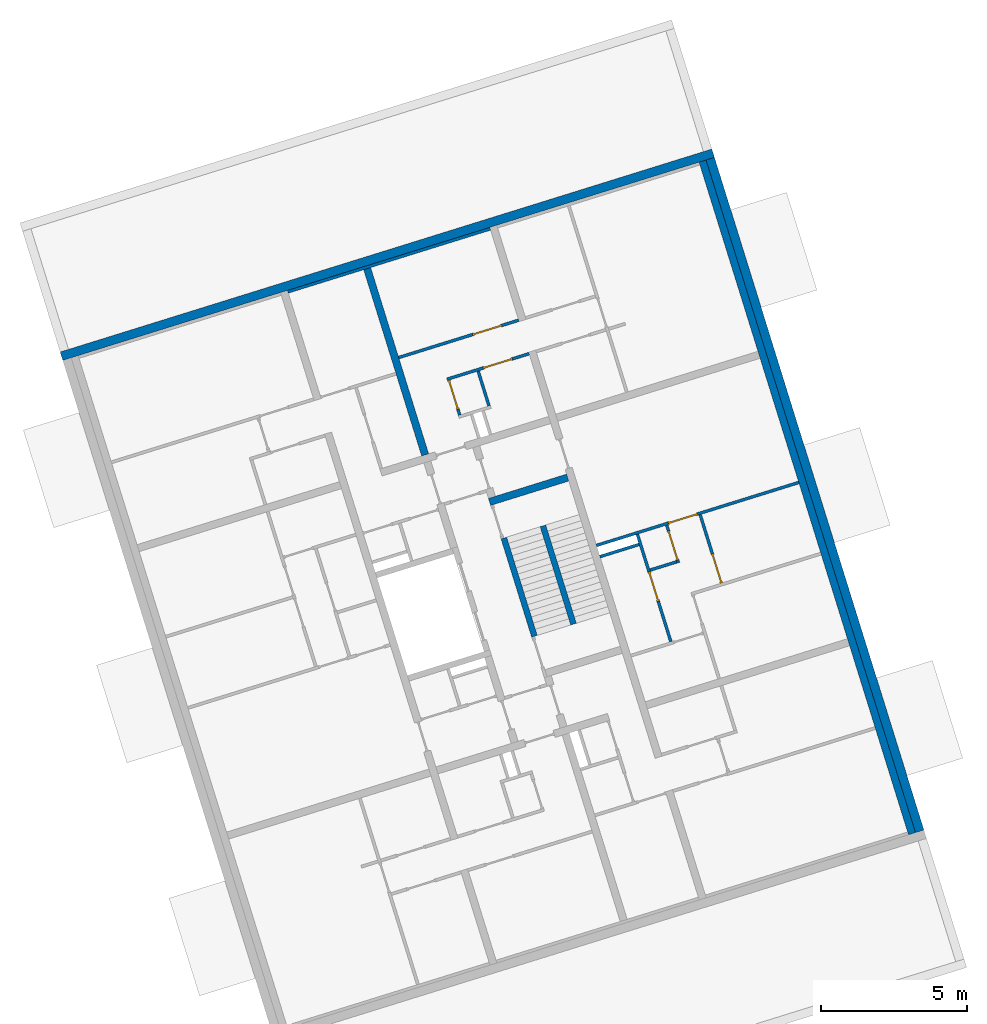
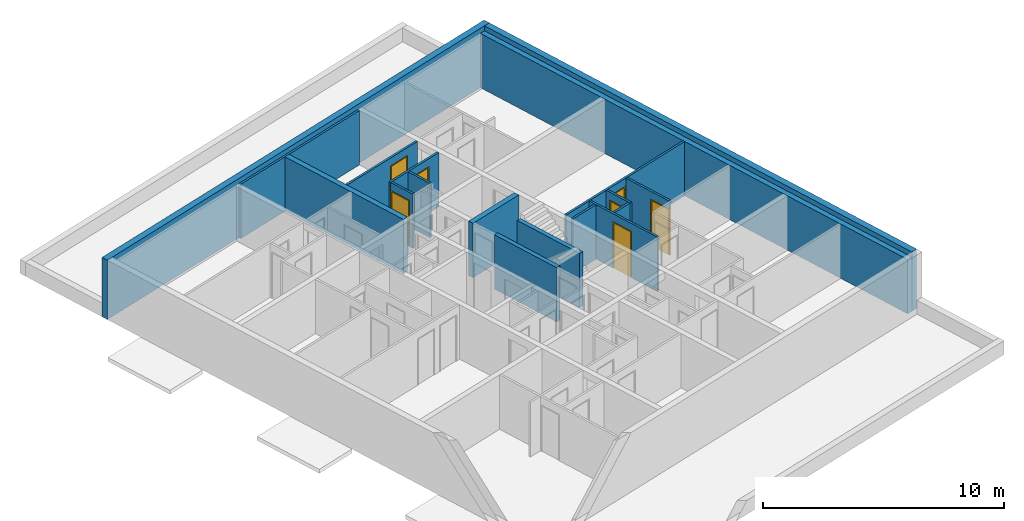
# One storey, part 6 of 9: 18 walls, 7 doors, 8 openings.
"""IFC4 building model written with IfcOpenShell, lengths in metres."""

from ifc_helpers import new_model, entity, si_unit, converted_unit, direction, frame, origin, place, context, subcontext, project, spatial, indexed_curve, outline, extrude, polygons, source, transform, mapped, material, constituent, constituent_set, type_object, type_shapes, element, fill, save


model = new_model("IFC4")

# Units and contexts
model_context = context("Model", 3, precision=1e-05, world=origin(), true_north=direction((6.12323399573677e-17, 1.0)))
body_context = subcontext(model_context, "Body", "Model", "MODEL_VIEW")
ifc_project = project(units=[si_unit("LENGTHUNIT", "METRE"), si_unit("AREAUNIT", "SQUARE_METRE"), si_unit("VOLUMEUNIT", "CUBIC_METRE"), converted_unit("PLANEANGLEUNIT", "DEGREE", entity("IfcPlaneAngleMeasure", 0.0174532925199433), si_unit("PLANEANGLEUNIT", "RADIAN"), dimensions=[0, 0, 0, 0, 0, 0, 0])], contexts=[model_context])

# Site, building, storey
site_placement = place(None, frame((13.1347999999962, 11.9886000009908, 0.0), z_axis=(0.0, 0.0, 1.0), x_axis=(0.954770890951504, 0.297342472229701, 0.0)))
site = spatial("IfcSite", under=ifc_project, at=site_placement, Name="Schiehaven", CompositionType="ELEMENT")
building_placement = place(site_placement, origin())
building = spatial("IfcBuilding", under=site, at=building_placement, Name="VORM huis", CompositionType="ELEMENT")
storey_placement = place(building_placement, frame((0.0, 0.0, 6.9)))
storey = spatial("IfcBuildingStorey", under=building, at=storey_placement, Name="02 tweede verdieping", CompositionType="ELEMENT", Elevation=6.9)

# Walls
ifc_material_1 = material(Name="beton_gewapend_ihw", Category="Miscellaneous")
wall_type_1 = type_object("IfcWallType", Name="Basic Wall:28_WA_skelet_wand 250mm_gen", PredefinedType="STANDARD")
wall_1_placement = place(storey_placement, frame((27.5000000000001, 5.0, 0.0), z_axis=(0.0, 0.0, 1.0), x_axis=(0.0, 1.0, 0.0)))
element("IfcWall", 1, at=wall_1_placement, inside=storey, type_object=wall_type_1, material=ifc_material_1, Name="Constructieve wand", ObjectType="Wand", PredefinedType="NOTDEFINED", context=body_context, shape_type="SweptSolid", body=[
    extrude(outline(indexed_curve([(24.1, 0.125000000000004), (-1.12157309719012e-16, 0.125000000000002), (1.12157309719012e-16, -0.125000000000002), (24.1, -0.125), (24.1, 0.125000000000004)], self_intersect=False)), origin(), (0.0, 0.0, 1.0), 2.75),
])
ifc_material_2 = material(Name="ntb_ntb_ntb", Category="Miscellaneous")
wall_type_2 = type_object("IfcWallType", Name="Basic Wall:21_WA_gevel_binnenspouwwand 100mm_gen", PredefinedType="STANDARD")
wall_2_placement = place(storey_placement, frame((19.875, 29.05, 0.0), z_axis=(0.0, 0.0, 1.0), x_axis=(-1.0, 0.0, 0.0)))
element("IfcWall", 2, at=wall_2_placement, inside=storey, type_object=wall_type_2, material=ifc_material_2, Name="Binnenspouwblad", ObjectType="Wand", PredefinedType="NOTDEFINED", context=body_context, shape_type="SweptSolid", body=[
    extrude(outline(indexed_curve([(7.24999999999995, 0.0500000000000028), (-8.07179175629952e-18, 0.0500000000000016), (8.07179175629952e-18, -0.0500000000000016), (7.24999999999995, -0.0500000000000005), (7.24999999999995, 0.0500000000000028)], self_intersect=False)), origin(), (0.0, 0.0, 1.0), 2.75),
])
wall_type_3 = type_object("IfcWallType", Name="Basic Wall: 300mm_gen", PredefinedType="STANDARD")
wall_3_placement = place(storey_placement, frame((27.7750000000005, 29.0999999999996, 0.0), z_axis=(0.0, 0.0, 1.0), x_axis=(0.0, -1.0, 0.0)))
element("IfcWall", 3, at=wall_3_placement, inside=storey, type_object=wall_type_3, material=ifc_material_2, Name="Gevelwand", ObjectType="Wand", PredefinedType="NOTDEFINED", context=body_context, shape_type="SweptSolid", body=[
    extrude(outline(indexed_curve([(24.1, 0.150000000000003), (2.02161848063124e-15, 0.150000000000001), (-2.02161848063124e-15, -0.150000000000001), (24.1, -0.149999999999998), (24.1, 0.150000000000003)], self_intersect=False)), origin(), (0.0, 0.0, 1.0), 3.0),
])
wall_4_placement = place(storey_placement, frame((4.57500000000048, 29.25, 0.0)))
element("IfcWall", 4, at=wall_4_placement, inside=storey, type_object=wall_type_3, material=ifc_material_2, Name="Gevelwand", ObjectType="Wand", PredefinedType="NOTDEFINED", context=body_context, shape_type="SweptSolid", body=[
    extrude(outline(indexed_curve([(23.35, 0.149999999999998), (-1.57429718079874e-16, 0.150000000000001), (1.57429718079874e-16, -0.150000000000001), (23.35, -0.150000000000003), (23.35, 0.149999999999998)], self_intersect=False)), origin(), (0.0, 0.0, 1.0), 3.0),
])
ifc_material_3 = material(Name="beton_gewapend_prefab-element", Category="Miscellaneous")
wall_type_4 = type_object("IfcWallType", Name="Basic Wall:28_WA_skelet_wand 200mm_gen", PredefinedType="STANDARD")
wall_5_placement = place(storey_placement, frame((17.1750000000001, 15.29, 0.0), z_axis=(0.0, 0.0, 1.0), x_axis=(0.0, 1.0, 0.0)))
element("IfcWall", 5, at=wall_5_placement, inside=storey, type_object=wall_type_4, material=ifc_material_3, Name="Constructieve wand", ObjectType="Wand", PredefinedType="NOTDEFINED", context=body_context, shape_type="SweptSolid", body=[
    extrude(outline(indexed_curve([(3.52, 0.0999999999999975), (-5.13023966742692e-16, 0.0999999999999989), (5.13023966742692e-16, -0.0999999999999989), (3.52, -0.1), (3.52, 0.0999999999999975)], self_intersect=False)), origin(), (0.0, 0.0, 1.0), 2.75),
])
wall_6_placement = place(storey_placement, frame((18.5750000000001, 15.29, 0.0), z_axis=(0.0, 0.0, 1.0), x_axis=(0.0, 1.0, 0.0)))
element("IfcWall", 6, at=wall_6_placement, inside=storey, type_object=wall_type_4, material=ifc_material_3, Name="Constructieve wand", ObjectType="Wand", PredefinedType="NOTDEFINED", context=body_context, shape_type="SweptSolid", body=[
    extrude(outline(indexed_curve([(3.52, 0.0999999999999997), (-6.36077049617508e-16, 0.0999999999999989), (6.36077049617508e-16, -0.0999999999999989), (3.52, -0.0999999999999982), (3.52, 0.0999999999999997)], self_intersect=False)), origin(), (0.0, 0.0, 1.0), 2.75),
])
wall_type_5 = type_object("IfcWallType", Name="Basic Wall:22_WA_afbouw_binnenwand 250mm_gen", PredefinedType="STANDARD")
wall_7_placement = place(storey_placement, frame((19.8750000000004, 20.1349999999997, 0.0), z_axis=(0.0, 0.0, 1.0), x_axis=(-1.0, 0.0, 0.0)))
element("IfcWall", 7, at=wall_7_placement, inside=storey, type_object=wall_type_5, material=ifc_material_2, Name="Binnenwand", ObjectType="Wand", PredefinedType="NOTDEFINED", context=body_context, shape_type="SweptSolid", body=[
    extrude(outline(indexed_curve([(2.80000000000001, 0.125000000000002), (2.21820971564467e-15, 0.125000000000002), (2.1132588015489e-15, -0.125000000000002), (2.80000000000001, -0.125000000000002), (2.80000000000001, 0.125000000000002)], self_intersect=False)), origin(), (0.0, 0.0, 1.0), 2.75),
])
wall_8_placement = place(storey_placement, frame((15.4500000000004, 22.3249999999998, 0.0), z_axis=(0.0, 0.0, 1.0), x_axis=(0.0, 1.0, 0.0)))
element("IfcWall", 8, at=wall_8_placement, inside=storey, type_object=wall_type_5, material=ifc_material_2, Name="Binnenwand", ObjectType="Wand", PredefinedType="NOTDEFINED", context=body_context, shape_type="SweptSolid", body=[
    extrude(outline(indexed_curve([(6.67500000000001, 0.124999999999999), (2.02524027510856e-15, 0.125), (-2.02524027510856e-15, -0.125), (6.67500000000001, -0.125), (6.67500000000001, 0.124999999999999)], self_intersect=False)), origin(), (0.0, 0.0, 1.0), 2.75),
])

# Wall, opening, door
wall_type_6 = type_object("IfcWallType", Name="Basic Wall:22_WA_afbouw_binnenwand 100mm_gen", PredefinedType="STANDARD")
wall_9_placement = place(storey_placement, frame((19.8750000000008, 25.7750000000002, 0.0), z_axis=(0.0, 0.0, 1.0), x_axis=(-1.0, 0.0, 0.0)))
wall_9 = element("IfcWall", 9, at=wall_9_placement, inside=storey, type_object=wall_type_6, material=ifc_material_2, Name="Binnenwand", ObjectType="Wand", PredefinedType="NOTDEFINED", context=body_context, shape_type="Tessellation", body=[
    polygons([(1.41600119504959e-15, -0.0499999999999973, 1.08286712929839e-15), (0.599999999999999, -0.0499999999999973, 1.08286712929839e-15), (0.600000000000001, -0.0499999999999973, 2.34999999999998), (1.65, -0.0500000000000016, 2.34999999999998), (1.65, -0.0500000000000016, 1.08286712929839e-15), (4.30000000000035, -0.0500000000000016, 1.08286712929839e-15), (4.30000000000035, -0.0500000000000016, 2.75), (1.41600119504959e-15, -0.0499999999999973, 2.75), (0.600000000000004, 0.0500000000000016, 2.34999999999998), (0.600000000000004, 0.0500000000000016, 1.08286712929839e-15), (-3.19070089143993e-17, 0.0500000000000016, 1.08286712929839e-15), (-3.19070089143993e-17, 0.0500000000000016, 2.75), (4.30000000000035, 0.0499999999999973, 2.75), (4.30000000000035, 0.0499999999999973, 1.08286712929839e-15), (1.65, 0.0499999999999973, 1.08286712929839e-15), (1.65, 0.0499999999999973, 2.34999999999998)], [[[1, 2, 3, 4, 5, 6, 7, 8]], [[9, 10, 11, 12, 13, 14, 15, 16]], [[11, 10, 2, 1]], [[7, 6, 14, 13]], [[8, 7, 13, 12]], [[1, 8, 12, 11]], [[5, 4, 16, 15]], [[3, 2, 10, 9]], [[4, 3, 9, 16]], [[15, 14, 6, 5]]], closed=True),
])
opening_1_placement = place(wall_9_placement, frame((0.599999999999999, -0.0500000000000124, 0.0)))
opening_1 = element("IfcOpeningElement", 10, at=opening_1_placement, cuts=wall_9, Name="Binnendeur", PredefinedType="OPENING", context=body_context, shape_type="SweptSolid", body=[
    extrude(outline(indexed_curve([(2.34999999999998, 1.05), (0.0, 1.05), (0.0, 1.35358391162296e-15), (2.34999999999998, 1.35358391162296e-15), (2.34999999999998, 1.05)], self_intersect=False)), frame((0.0, 0.0, 0.0), z_axis=(0.0, 1.0, 0.0), x_axis=(0.0, 0.0, 1.0)), (0.0, 0.0, 1.0), 0.1),
])
ifc_material_4 = material(Name="PD_a_binnenwandopeningen", Category="Miscellaneous")
ifc_constituent_1 = constituent(ifc_material_4, Name="PD_a_binnenwandopeningen", Category="Miscellaneous")
ifc_material_5 = material(Name="metaal_aluminium_ntb", Category="Miscellaneous")
ifc_constituent_2 = constituent(ifc_material_5, Name="metaal_aluminium_ntb", Category="Miscellaneous")
ifc_constituent_set_1 = constituent_set(constituents=[ifc_constituent_1, ifc_constituent_2])
door_type = type_object("IfcDoorType", Name="32_DO_binnendeur enkel:binnendeur", OperationType="REVOLVING", PredefinedType="DOOR")
shared_shape = source(origin(), body_context, "Body", "SweptSolid", [
    extrude(outline(indexed_curve([(-1.16249999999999, -0.525000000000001), (1.18749999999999, -0.525), (1.18749999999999, 0.525), (-1.16249999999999, 0.525), (-1.16249999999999, 0.475), (1.13749999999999, 0.475), (1.13749999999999, -0.475), (-1.16249999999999, -0.475), (-1.16249999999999, -0.525000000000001)], self_intersect=False)), frame((0.525000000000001, 0.0, 1.16249999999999), z_axis=(0.0, 1.0, 0.0), x_axis=(0.0, 0.0, 1.0)), (0.0, 0.0, 1.0), 0.1),
    extrude(outline(indexed_curve([(-0.025, -0.475), (0.025, -0.475), (0.025, 0.475), (-0.025, 0.475), (-0.025, -0.475)], self_intersect=False)), frame((0.525000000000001, 0.0499999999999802, 0.0), z_axis=(0.0, 0.0, 1.0), x_axis=(0.0, 1.0, 0.0)), (0.0, 0.0, 1.0), 2.29999999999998),
])
type_shapes(door_type, [shared_shape])
door_1_placement = place(opening_1_placement, origin())
door_1 = element("IfcDoor", 11, at=door_1_placement, inside=storey, type_object=door_type, material=ifc_constituent_set_1, Name="Binnendeur", ObjectType="Deur", OperationType="REVOLVING", OverallHeight=2.34999999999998, OverallWidth=1.05, PredefinedType="DOOR", context=body_context, shape_type="MappedRepresentation", body=[
    mapped(shared_shape, transform((0.0, 0.0, 0.0), scale=1.0)),
])
fill(opening_1, door_1)

# Wall, openings, door
wall_10_placement = place(storey_placement, frame((19.8750000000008, 24.5750000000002, 0.0), z_axis=(0.0, 0.0, 1.0), x_axis=(-1.0, 0.0, 0.0)))
wall_10 = element("IfcWall", 12, at=wall_10_placement, inside=storey, type_object=wall_type_6, material=ifc_material_2, Name="Binnenwand", ObjectType="Wand", PredefinedType="NOTDEFINED", context=body_context, shape_type="Tessellation", body=[
    polygons([(1.65, -0.0500000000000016, 2.34999999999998), (1.65, -0.0500000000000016, 1.08286712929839e-15), (2.94100000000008, -0.0500000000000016, 1.08286712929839e-15), (2.94100000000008, -0.0500000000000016, 2.75), (1.36697681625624e-15, -0.0499999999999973, 2.75), (1.36697681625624e-15, -0.0499999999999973, 1.08286712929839e-15), (0.599999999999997, -0.0499999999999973, 1.08286712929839e-15), (0.599999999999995, -0.0499999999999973, 2.34999999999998), (2.94100000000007, 0.0499999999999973, 1.08286712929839e-15), (1.89100000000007, 0.0499999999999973, 0.0), (1.79100000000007, 0.0500000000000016, 0.0), (1.65, 0.0499999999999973, 1.08286712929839e-15), (1.65, 0.0499999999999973, 2.34999999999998), (0.6, 0.0500000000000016, 2.34999999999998), (0.6, 0.0500000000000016, 1.08286712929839e-15), (-8.09313877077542e-17, 0.0500000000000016, 1.08286712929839e-15), (-8.09313877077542e-17, 0.0500000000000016, 2.75), (1.79100000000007, 0.0500000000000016, 2.75), (1.89100000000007, 0.0499999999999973, 2.75), (2.84100000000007, 0.0499999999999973, 2.75), (2.94100000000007, 0.0499999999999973, 2.75), (2.94100000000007, 0.0499999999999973, 2.34999999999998)], [[[1, 2, 3, 4, 5, 6, 7, 8]], [[9, 10, 11, 12, 13, 14, 15, 16, 17, 18, 19, 20, 21, 22]], [[7, 6, 16, 15]], [[5, 4, 21, 20, 19, 18, 17]], [[6, 5, 17, 16]], [[15, 14, 8, 7]], [[13, 12, 2, 1]], [[14, 13, 1, 8]], [[4, 3, 9, 22, 21]], [[3, 2, 12, 11, 10, 9]]], closed=True),
])
opening_2_placement = place(wall_10_placement, origin())
element("IfcOpeningElement", 13, at=opening_2_placement, cuts=wall_10, Name="Binnendeur", PredefinedType="OPENING", context=body_context, shape_type="SweptSolid", body=[
    extrude(outline(indexed_curve([(-0.0499999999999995, -1.17499999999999), (0.0500000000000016, -1.17499999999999), (0.0500000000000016, 1.17499999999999), (-0.0499999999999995, 1.17499999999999), (-0.0499999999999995, -1.17499999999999)], self_intersect=False)), frame((2.89100000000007, 0.0499999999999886, 1.17499999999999), z_axis=(0.0, 1.0, 0.0), x_axis=(-1.0, 0.0, 0.0)), (0.0, 0.0, 1.0), 1.05),
])
opening_3_placement = place(wall_10_placement, frame((1.65, 0.0499999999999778, 0.0)))
opening_3 = element("IfcOpeningElement", 14, at=opening_3_placement, cuts=wall_10, Name="Binnendeur", PredefinedType="OPENING", context=body_context, shape_type="SweptSolid", body=[
    extrude(outline(indexed_curve([(2.34999999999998, 1.05), (0.0, 1.05), (0.0, 1.35358391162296e-15), (2.34999999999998, 1.35358391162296e-15), (2.34999999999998, 1.05)], self_intersect=False)), frame((0.0, 0.0, 0.0), z_axis=(0.0, -1.0, 0.0), x_axis=(0.0, 0.0, 1.0)), (0.0, 0.0, 1.0), 0.1),
])
ifc_constituent_3 = constituent(ifc_material_4, Name="PD_a_binnenwandopeningen", Category="Miscellaneous")
ifc_constituent_4 = constituent(ifc_material_5, Name="metaal_aluminium_ntb", Category="Miscellaneous")
ifc_constituent_set_2 = constituent_set(constituents=[ifc_constituent_3, ifc_constituent_4])
door_2_placement = place(opening_3_placement, frame((0.0, 0.0, 0.0), z_axis=(0.0, 0.0, 1.0), x_axis=(-1.0, 0.0, 0.0)))
door_2 = element("IfcDoor", 15, at=door_2_placement, inside=storey, type_object=door_type, material=ifc_constituent_set_2, Name="Binnendeur", ObjectType="Deur", OperationType="REVOLVING", OverallHeight=2.34999999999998, OverallWidth=1.05, PredefinedType="DOOR", context=body_context, shape_type="MappedRepresentation", body=[
    mapped(shared_shape, transform((0.0, 0.0, 0.0), scale=1.0)),
])
fill(opening_3, door_2)

# Wall, opening, door
wall_11_placement = place(storey_placement, frame((16.9840000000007, 24.5250000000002, 0.0), z_axis=(0.0, 0.0, 1.0), x_axis=(0.0, -1.0, 0.0)))
wall_11 = element("IfcWall", 16, at=wall_11_placement, inside=storey, type_object=wall_type_6, material=ifc_material_2, Name="Binnenwand", ObjectType="Wand", PredefinedType="NOTDEFINED", context=body_context, shape_type="Tessellation", body=[
    polygons([(1.24999999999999, -0.0500000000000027, 2.75), (0.0, -0.0500000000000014, 2.75), (0.0, -0.0500000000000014, 2.34999999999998), (1.05, -0.050000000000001, 2.34999999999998), (1.05, -0.050000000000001, 1.08286712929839e-15), (1.24999999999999, -0.0500000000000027, 1.08286712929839e-15), (0.0, 0.0499999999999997, 2.75), (1.25, 0.0500000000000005, 2.75), (1.25, 0.0500000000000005, 1.08286712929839e-15), (1.05, 0.0500000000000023, 1.08286712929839e-15), (1.05, 0.0500000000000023, 2.34999999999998), (0.0, 0.0499999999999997, 2.34999999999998)], [[[1, 2, 3, 4, 5, 6]], [[7, 8, 9, 10, 11, 12]], [[9, 6, 5, 10]], [[2, 1, 8, 7]], [[4, 11, 10, 5]], [[11, 4, 3, 12]], [[1, 6, 9, 8]], [[2, 7, 12, 3]]], closed=True),
])
opening_4_placement = place(wall_11_placement, frame((1.05, 0.0499999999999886, 0.0)))
opening_4 = element("IfcOpeningElement", 17, at=opening_4_placement, cuts=wall_11, Name="Binnendeur", PredefinedType="OPENING", context=body_context, shape_type="SweptSolid", body=[
    extrude(outline(indexed_curve([(2.34999999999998, 1.05), (0.0, 1.05), (0.0, 0.0), (2.34999999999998, 0.0), (2.34999999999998, 1.05)], self_intersect=False)), frame((0.0, 0.0, 0.0), z_axis=(0.0, -1.0, 0.0), x_axis=(0.0, 0.0, 1.0)), (0.0, 0.0, 1.0), 0.1),
])
ifc_constituent_5 = constituent(ifc_material_4, Name="PD_a_binnenwandopeningen", Category="Miscellaneous")
ifc_constituent_6 = constituent(ifc_material_5, Name="metaal_aluminium_ntb", Category="Miscellaneous")
ifc_constituent_set_3 = constituent_set(constituents=[ifc_constituent_5, ifc_constituent_6])
door_3_placement = place(opening_4_placement, frame((0.0, 0.0, 0.0), z_axis=(0.0, 0.0, 1.0), x_axis=(-1.0, 0.0, 0.0)))
door_3 = element("IfcDoor", 18, at=door_3_placement, inside=storey, type_object=door_type, material=ifc_constituent_set_3, Name="Binnendeur", ObjectType="Deur", OperationType="REVOLVING", OverallHeight=2.34999999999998, OverallWidth=1.05, PredefinedType="DOOR", context=body_context, shape_type="MappedRepresentation", body=[
    mapped(shared_shape, transform((0.0, 0.0, 0.0), scale=1.0)),
])
fill(opening_4, door_3)

# Wall
wall_12_placement = place(storey_placement, frame((18.0340000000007, 23.2750000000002, 0.0), z_axis=(0.0, 0.0, 1.0), x_axis=(0.0, 1.0, 0.0)))
element("IfcWall", 19, at=wall_12_placement, inside=storey, type_object=wall_type_6, material=ifc_material_2, Name="Binnenwand", ObjectType="Wand", PredefinedType="NOTDEFINED", context=body_context, shape_type="SweptSolid", body=[
    extrude(outline(indexed_curve([(1.25, 0.049999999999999), (-6.72839576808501e-16, 0.0499999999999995), (6.72839576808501e-16, -0.0499999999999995), (1.25, -0.05), (1.25, 0.049999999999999)], self_intersect=False)), origin(), (0.0, 0.0, 1.0), 2.75),
])

# Wall, opening, door
wall_13_placement = place(storey_placement, frame((20.1228357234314, 17.625, 0.0)))
wall_13 = element("IfcWall", 20, at=wall_13_placement, inside=storey, type_object=wall_type_6, material=ifc_material_2, Name="Binnenwand", ObjectType="Wand", PredefinedType="NOTDEFINED", context=body_context, shape_type="Tessellation", body=[
    polygons([(-1.21241354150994e-15, -0.0500000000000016, 1.08286712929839e-15), (1.40216427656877, -0.0500000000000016, 0.0), (1.50216427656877, -0.0499999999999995, 0.0), (2.45216427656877, -0.0500000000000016, 0.0), (2.55216427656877, -0.0500000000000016, 0.0), (2.57716427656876, -0.0500000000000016, 1.08286712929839e-15), (2.57716427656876, -0.0500000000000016, 2.34999999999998), (3.62716427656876, -0.0500000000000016, 2.34999999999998), (3.62716427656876, -0.0500000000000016, 1.08286712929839e-15), (3.65216427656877, -0.0500000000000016, 0.0), (3.75216427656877, -0.0499999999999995, 0.0), (7.25216427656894, -0.0499999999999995, 1.08286712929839e-15), (7.25216427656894, -0.0499999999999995, 2.75), (3.75216427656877, -0.0499999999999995, 2.75), (3.65216427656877, -0.0500000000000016, 2.75), (2.55216427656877, -0.0500000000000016, 2.75), (2.45216427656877, -0.0500000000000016, 2.75), (1.50216427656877, -0.0499999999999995, 2.75), (1.40216427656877, -0.0500000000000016, 2.75), (-1.21241354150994e-15, -0.0500000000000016, 2.75), (2.57716427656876, 0.0499999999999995, 2.34999999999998), (2.57716427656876, 0.0499999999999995, 1.08286712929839e-15), (-1.5889964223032e-15, 0.0499999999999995, 1.08286712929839e-15), (-1.5889964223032e-15, 0.0499999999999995, 2.75), (7.25216427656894, 0.0500000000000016, 2.75), (7.25216427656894, 0.0500000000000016, 1.08286712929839e-15), (3.62716427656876, 0.0500000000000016, 1.08286712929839e-15), (3.62716427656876, 0.0500000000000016, 2.34999999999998)], [[[1, 2, 3, 4, 5, 6, 7, 8, 9, 10, 11, 12, 13, 14, 15, 16, 17, 18, 19, 20]], [[21, 22, 23, 24, 25, 26, 27, 28]], [[23, 22, 6, 5, 4, 3, 2, 1]], [[13, 12, 26, 25]], [[20, 19, 18, 17, 16, 15, 14, 13, 25, 24]], [[1, 20, 24, 23]], [[9, 8, 28, 27]], [[7, 6, 22, 21]], [[8, 7, 21, 28]], [[27, 26, 12, 11, 10, 9]]], closed=True),
])
opening_5_placement = place(wall_13_placement, frame((2.57716427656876, -0.0500000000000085, 0.0)))
opening_5 = element("IfcOpeningElement", 21, at=opening_5_placement, cuts=wall_13, Name="Binnendeur", PredefinedType="OPENING", context=body_context, shape_type="SweptSolid", body=[
    extrude(outline(indexed_curve([(2.34999999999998, 1.05), (0.0, 1.05), (0.0, -1.4336339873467e-30), (2.34999999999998, -1.4336339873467e-30), (2.34999999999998, 1.05)], self_intersect=False)), frame((0.0, 0.0, 0.0), z_axis=(0.0, 1.0, 0.0), x_axis=(0.0, 0.0, 1.0)), (0.0, 0.0, 1.0), 0.1),
])
ifc_constituent_7 = constituent(ifc_material_4, Name="PD_a_binnenwandopeningen", Category="Miscellaneous")
ifc_constituent_8 = constituent(ifc_material_5, Name="metaal_aluminium_ntb", Category="Miscellaneous")
ifc_constituent_set_4 = constituent_set(constituents=[ifc_constituent_7, ifc_constituent_8])
door_4_placement = place(opening_5_placement, origin())
door_4 = element("IfcDoor", 22, at=door_4_placement, inside=storey, type_object=door_type, material=ifc_constituent_set_4, Name="Binnendeur", ObjectType="Deur", OperationType="REVOLVING", OverallHeight=2.34999999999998, OverallWidth=1.05, PredefinedType="DOOR", context=body_context, shape_type="MappedRepresentation", body=[
    mapped(shared_shape, transform((0.0, 0.0, 0.0), scale=1.0)),
])
fill(opening_5, door_4)

wall_14_placement = place(storey_placement, frame((22.6250000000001, 16.225, 0.0), z_axis=(0.0, 0.0, 1.0), x_axis=(0.0, 1.0, 0.0)))
wall_14 = element("IfcWall", 23, at=wall_14_placement, inside=storey, type_object=wall_type_6, material=ifc_material_2, Name="Binnenwand", ObjectType="Wand", PredefinedType="NOTDEFINED", context=body_context, shape_type="Tessellation", body=[
    polygons([(1.15, -0.0499999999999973, 2.34999999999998), (1.15, -0.0499999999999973, 1.08286712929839e-15), (1.35, -0.0499999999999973, 1.08286712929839e-15), (1.35, -0.0499999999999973, 2.75), (0.0, -0.0499999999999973, 2.75), (0.0, -0.0499999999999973, 1.08286712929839e-15), (0.100000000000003, -0.0499999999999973, 1.08286712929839e-15), (0.100000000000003, -0.0499999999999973, 2.34999999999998), (1.35, 0.0500000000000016, 1.08286712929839e-15), (1.15, 0.0500000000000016, 1.08286712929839e-15), (1.15, 0.0500000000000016, 2.34999999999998), (0.100000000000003, 0.0500000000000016, 2.34999999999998), (0.100000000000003, 0.0500000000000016, 1.08286712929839e-15), (0.0, 0.0500000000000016, 1.08286712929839e-15), (0.0, 0.0500000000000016, 2.75), (0.100000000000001, 0.0500000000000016, 2.75), (1.35, 0.0500000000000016, 2.75)], [[[1, 2, 3, 4, 5, 6, 7, 8]], [[9, 10, 11, 12, 13, 14, 15, 16, 17]], [[7, 6, 14, 13]], [[5, 4, 17, 16, 15]], [[6, 5, 15, 14]], [[4, 3, 9, 17]], [[13, 12, 8, 7]], [[11, 10, 2, 1]], [[12, 11, 1, 8]], [[3, 2, 10, 9]]], closed=True),
])
opening_6_placement = place(wall_14_placement, frame((1.15000000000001, 0.0500000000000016, 0.0)))
opening_6 = element("IfcOpeningElement", 24, at=opening_6_placement, cuts=wall_14, Name="Binnendeur", PredefinedType="OPENING", context=body_context, shape_type="SweptSolid", body=[
    extrude(outline(indexed_curve([(2.34999999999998, 1.05), (0.0, 1.05), (0.0, 1.35358391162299e-15), (2.34999999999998, 1.35358391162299e-15), (2.34999999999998, 1.05)], self_intersect=False)), frame((0.0, 0.0, 0.0), z_axis=(0.0, -1.0, 0.0), x_axis=(0.0, 0.0, 1.0)), (0.0, 0.0, 1.0), 0.1),
])
ifc_constituent_9 = constituent(ifc_material_4, Name="PD_a_binnenwandopeningen", Category="Miscellaneous")
ifc_constituent_10 = constituent(ifc_material_5, Name="metaal_aluminium_ntb", Category="Miscellaneous")
ifc_constituent_set_5 = constituent_set(constituents=[ifc_constituent_9, ifc_constituent_10])
door_5_placement = place(opening_6_placement, frame((0.0, 0.0, 0.0), z_axis=(0.0, 0.0, 1.0), x_axis=(-1.0, 0.0, 0.0)))
door_5 = element("IfcDoor", 25, at=door_5_placement, inside=storey, type_object=door_type, material=ifc_constituent_set_5, Name="Binnendeur", ObjectType="Deur", OperationType="REVOLVING", OverallHeight=2.34999999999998, OverallWidth=1.05, PredefinedType="DOOR", context=body_context, shape_type="MappedRepresentation", body=[
    mapped(shared_shape, transform((0.0, 0.0, 0.0), scale=1.0)),
])
fill(opening_6, door_5)

# Walls
wall_15_placement = place(storey_placement, frame((21.6250000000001, 16.275, 0.0)))
element("IfcWall", 26, at=wall_15_placement, inside=storey, type_object=wall_type_6, material=ifc_material_2, Name="Binnenwand", ObjectType="Wand", PredefinedType="NOTDEFINED", context=body_context, shape_type="SweptSolid", body=[
    extrude(outline(indexed_curve([(0.950000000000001, 0.0499999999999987), (-1.88291440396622e-16, 0.0499999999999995), (1.88291440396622e-16, -0.0499999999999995), (0.950000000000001, -0.0500000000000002), (0.950000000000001, 0.0499999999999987)], self_intersect=False)), origin(), (0.0, 0.0, 1.0), 2.75),
])
wall_16_placement = place(storey_placement, frame((20.1228357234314, 17.225, 0.0)))
element("IfcWall", 27, at=wall_16_placement, inside=storey, type_object=wall_type_6, material=ifc_material_2, Name="Binnenwand", ObjectType="Wand", PredefinedType="NOTDEFINED", context=body_context, shape_type="SweptSolid", body=[
    extrude(outline(indexed_curve([(1.40216427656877, 0.0500000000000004), (-1.88291440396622e-16, 0.0499999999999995), (1.88291440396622e-16, -0.0499999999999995), (1.40216427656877, -0.0499999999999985), (1.40216427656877, 0.0500000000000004)], self_intersect=False)), origin(), (0.0, 0.0, 1.0), 2.75),
])

# Wall, opening, door
wall_17_placement = place(storey_placement, frame((23.8250000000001, 15.125, 0.0), z_axis=(0.0, 0.0, 1.0), x_axis=(0.0, 1.0, 0.0)))
wall_17 = element("IfcWall", 28, at=wall_17_placement, inside=storey, type_object=wall_type_6, material=ifc_material_2, Name="Binnenwand", ObjectType="Wand", PredefinedType="NOTDEFINED", context=body_context, shape_type="Tessellation", body=[
    polygons([(2.45, -0.0499999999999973, 2.75), (0.0, -0.0499999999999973, 2.75), (0.0, -0.0499999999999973, 2.34999999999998), (1.05, -0.0499999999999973, 2.34999999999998), (1.05, -0.0499999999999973, 1.08286712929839e-15), (2.45, -0.0499999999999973, 1.08286712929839e-15), (0.0, 0.0500000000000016, 2.75), (2.45, 0.0500000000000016, 2.75), (2.45, 0.0500000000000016, 1.08286712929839e-15), (1.05, 0.0500000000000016, 1.08286712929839e-15), (1.05, 0.0500000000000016, 2.34999999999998), (0.0, 0.0500000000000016, 2.34999999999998)], [[[1, 2, 3, 4, 5, 6]], [[7, 8, 9, 10, 11, 12]], [[9, 6, 5, 10]], [[2, 1, 8, 7]], [[2, 7, 12, 3]], [[1, 6, 9, 8]], [[4, 11, 10, 5]], [[11, 4, 3, 12]]], closed=True),
])
opening_7_placement = place(wall_17_placement, frame((0.0, -0.050000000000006, 0.0)))
opening_7 = element("IfcOpeningElement", 29, at=opening_7_placement, cuts=wall_17, Name="Binnendeur", PredefinedType="OPENING", context=body_context, shape_type="SweptSolid", body=[
    extrude(outline(indexed_curve([(2.34999999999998, 1.05), (0.0, 1.05), (0.0, 1.35358391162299e-15), (2.34999999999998, 1.35358391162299e-15), (2.34999999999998, 1.05)], self_intersect=False)), frame((0.0, 0.0, 0.0), z_axis=(0.0, 1.0, 0.0), x_axis=(0.0, 0.0, 1.0)), (0.0, 0.0, 1.0), 0.1),
])
ifc_constituent_11 = constituent(ifc_material_4, Name="PD_a_binnenwandopeningen", Category="Miscellaneous")
ifc_constituent_12 = constituent(ifc_material_5, Name="metaal_aluminium_ntb", Category="Miscellaneous")
ifc_constituent_set_6 = constituent_set(constituents=[ifc_constituent_11, ifc_constituent_12])
door_6_placement = place(opening_7_placement, origin())
door_6 = element("IfcDoor", 30, at=door_6_placement, inside=storey, type_object=door_type, material=ifc_constituent_set_6, Name="Binnendeur", ObjectType="Deur", OperationType="REVOLVING", OverallHeight=2.34999999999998, OverallWidth=1.05, PredefinedType="DOOR", context=body_context, shape_type="MappedRepresentation", body=[
    mapped(shared_shape, transform((0.0, 0.0, 0.0), scale=1.0)),
])
fill(opening_7, door_6)

wall_18_placement = place(storey_placement, frame((21.5750000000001, 13.725, 0.0), z_axis=(0.0, 0.0, 1.0), x_axis=(0.0, 1.0, 0.0)))
wall_18 = element("IfcWall", 31, at=wall_18_placement, inside=storey, type_object=wall_type_6, material=ifc_material_2, Name="Binnenwand", ObjectType="Wand", PredefinedType="NOTDEFINED", context=body_context, shape_type="Tessellation", body=[
    polygons([(2.50000000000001, -0.0499999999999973, 2.34999999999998), (2.50000000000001, -0.0499999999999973, 1.08286712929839e-15), (2.60000000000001, -0.0499999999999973, 0.0), (3.85000000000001, -0.0499999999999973, 1.08286712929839e-15), (3.85000000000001, -0.0499999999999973, 2.75), (2.60000000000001, -0.0499999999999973, 2.75), (2.50000000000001, -0.0499999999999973, 2.75), (2.16573425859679e-15, -0.0499999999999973, 2.75), (0.0, -0.0499999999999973, 1.08286712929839e-15), (1.45000000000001, -0.0499999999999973, 1.08286712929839e-15), (1.45000000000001, -0.0499999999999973, 2.34999999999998), (3.85000000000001, 0.0500000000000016, 1.08286712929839e-15), (3.55000000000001, 0.0500000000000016, 0.0), (3.45000000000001, 0.0500000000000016, 0.0), (2.50000000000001, 0.0500000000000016, 1.08286712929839e-15), (2.50000000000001, 0.0500000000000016, 2.34999999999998), (1.45000000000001, 0.0500000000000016, 2.34999999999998), (1.45000000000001, 0.0500000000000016, 1.08286712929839e-15), (0.0, 0.0500000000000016, 1.08286712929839e-15), (0.0, 0.0500000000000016, 2.75), (3.45000000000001, 0.0500000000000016, 2.75), (3.55000000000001, 0.0500000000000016, 2.75), (3.85000000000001, 0.0500000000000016, 2.75)], [[[1, 2, 3, 4, 5, 6, 7, 8, 9, 10, 11]], [[12, 13, 14, 15, 16, 17, 18, 19, 20, 21, 22, 23]], [[10, 9, 19, 18]], [[8, 7, 6, 5, 23, 22, 21, 20]], [[9, 8, 20, 19]], [[5, 4, 12, 23]], [[18, 17, 11, 10]], [[16, 15, 2, 1]], [[17, 16, 1, 11]], [[4, 3, 2, 15, 14, 13, 12]]], closed=True),
])
opening_8_placement = place(wall_18_placement, frame((2.50000000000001, 0.0499999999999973, 0.0)))
opening_8 = element("IfcOpeningElement", 32, at=opening_8_placement, cuts=wall_18, Name="Binnendeur", PredefinedType="OPENING", context=body_context, shape_type="SweptSolid", body=[
    extrude(outline(indexed_curve([(2.34999999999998, 1.05), (0.0, 1.05), (0.0, 1.08286712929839e-15), (2.34999999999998, 1.08286712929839e-15), (2.34999999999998, 1.05)], self_intersect=False)), frame((0.0, 0.0, 0.0), z_axis=(0.0, -1.0, 0.0), x_axis=(0.0, 0.0, 1.0)), (0.0, 0.0, 1.0), 0.1),
])
ifc_constituent_13 = constituent(ifc_material_4, Name="PD_a_binnenwandopeningen", Category="Miscellaneous")
ifc_constituent_14 = constituent(ifc_material_5, Name="metaal_aluminium_ntb", Category="Miscellaneous")
ifc_constituent_set_7 = constituent_set(constituents=[ifc_constituent_13, ifc_constituent_14])
door_7_placement = place(opening_8_placement, frame((0.0, 0.0, 0.0), z_axis=(0.0, 0.0, 1.0), x_axis=(-1.0, 0.0, 0.0)))
door_7 = element("IfcDoor", 33, at=door_7_placement, inside=storey, type_object=door_type, material=ifc_constituent_set_7, Name="Binnendeur", ObjectType="Deur", OperationType="REVOLVING", OverallHeight=2.34999999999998, OverallWidth=1.05, PredefinedType="DOOR", context=body_context, shape_type="MappedRepresentation", body=[
    mapped(shared_shape, transform((0.0, 0.0, 0.0), scale=1.0)),
])
fill(opening_8, door_7)

save(model, "model.ifc")
